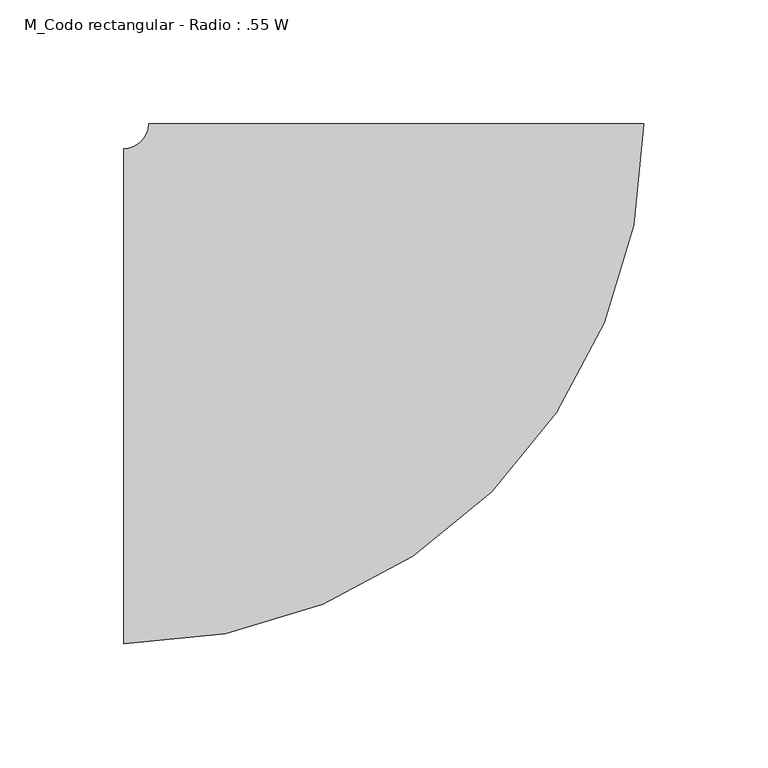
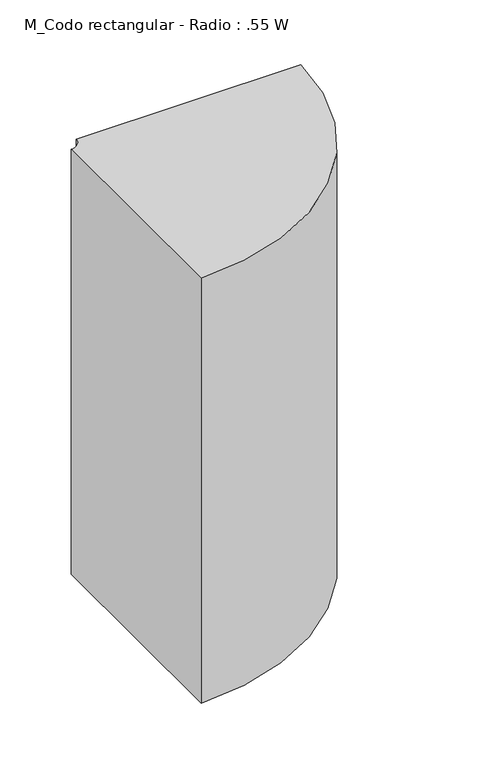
"""IFC4 building model written with IfcOpenShell, lengths in millimetres: duct fitting geometry, M_Codo rectangular - Radio : .55 W."""

from ifc_helpers import new_model, si_unit, point, frame, frame_2d, origin, place, context, project, spatial, polyline, circle_curve, trimmed, segment, composite_curve, outline, extrude, source, transform, mapped, element, save


def m_codo_rectangular_radio_55_w_b48da19c(model_context):
    return source(origin(), model_context, "Body", "SweptSolid", [
        extrude(outline(composite_curve([segment(trimmed(circle_curve(frame_2d((-110.0, 110.0)), 210.0), [point((100.0, 110.0))], [point((-110.0, -100.0))], False, "CARTESIAN"), True, "CONTINUOUS"), segment(polyline([(-110.0, -100.0), (-110.0, 100.0)]), True, "CONTINUOUS"), segment(trimmed(circle_curve(frame_2d((-110.0, 110.0)), 10.0), [point((-110.0, 100.0))], [point((-100.0, 110.0))], True, "CARTESIAN"), True, "CONTINUOUS"), segment(polyline([(-100.0, 110.0), (100.0, 110.0)]), True, "CONTINUOUS")], self_intersect=False)), frame((0.0, 0.0, -200.0), z_axis=(0.0, 0.0, 1.0), x_axis=(1.0, 0.0, 0.0)), (0.0, 0.0, 1.0), 400.0),
    ])


if __name__ == "__main__":
    model = new_model("IFC4")
    model_context = context("Model", 3, world=origin())
    ifc_project = project(units=[si_unit("LENGTHUNIT", "METRE", prefix="MILLI")], contexts=[model_context])
    site = spatial("IfcSite", under=ifc_project)
    building = spatial("IfcBuilding", under=site)
    placement = place(None, origin())
    m_codo_rectangular_radio_55_w_shape = m_codo_rectangular_radio_55_w_b48da19c(model_context)
    element("IfcDuctFitting", 1, ObjectType="M_Codo rectangular - Radio : .55 W", at=placement, inside=building, context=model_context, shape_type="MappedRepresentation", body=[
        mapped(m_codo_rectangular_radio_55_w_shape, transform((0.0, 0.0, 0.0), x_axis=(1.0, 0.0, 0.0), y_axis=(0.0, 1.0, 0.0), z_axis=(0.0, 0.0, 1.0))),
    ])
    save(model, "model.ifc")
